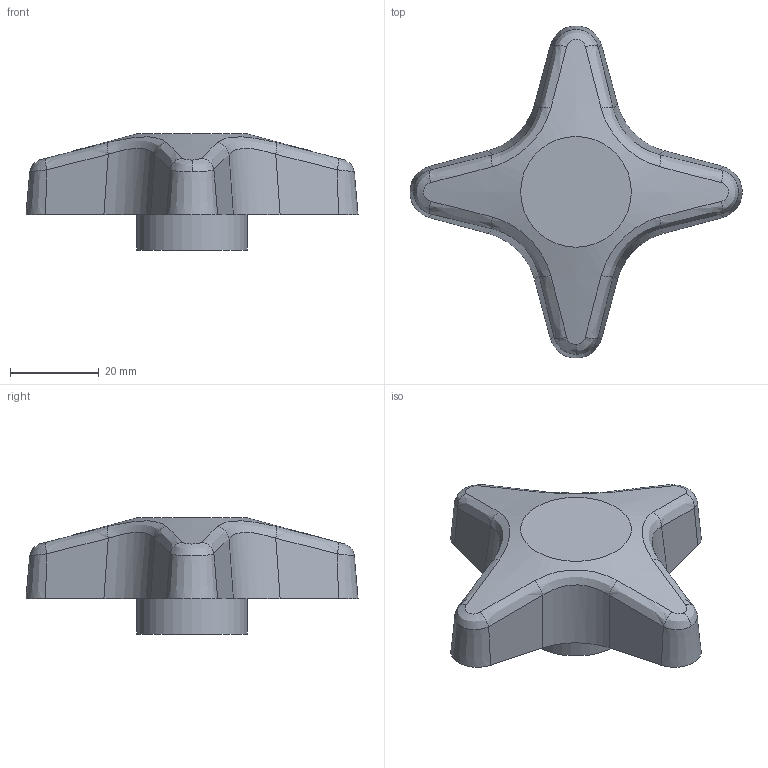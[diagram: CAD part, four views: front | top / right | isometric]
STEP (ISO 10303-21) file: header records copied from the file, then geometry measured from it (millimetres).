
FILE_DESCRIPTION( ('This file contains a STEP AP42 implementation' ,'as created by ZW3D STEP Interface translator.') ,'2;1' );
FILE_NAME( 'Pokretlo krzyzowe 75.stp' ,'26 817. 7 541', (''), ('ZWCAD Software Co.'), 'Version 1.0', 'ZW3D to STEP translator', '' );
FILE_SCHEMA(('AP242_MANAGED_MODEL_BASED_3D_ENGINEERING_MIM_LF { 1 0 10303 442 1 1 4 }'));
Length unit declared in the file: millimetre
Products named in the file (1): 0
Bounding box: 74.95 x 74.95 x 26.2 mm (x, y, z)
Volume: 36599.6 mm3; surface area: 10066.6 mm2
Topology: 2 solids, 2 shells, 45 faces, 99 edges, 60 vertices
Faces by surface type: bspline 17, plane 14, cylinder 8, cone 6
Full cylindrical faces by diameter (mm): 6.8 x1, 13 x2, 25 x1
Entity records: 2887 total; most frequent: CARTESIAN_POINT 2010, ORIENTED_EDGE 198, DIRECTION 116, EDGE_CURVE 99, VERTEX_POINT 60, EDGE_LOOP 49, FACE_OUTER_BOUND 45, ADVANCED_FACE 45
